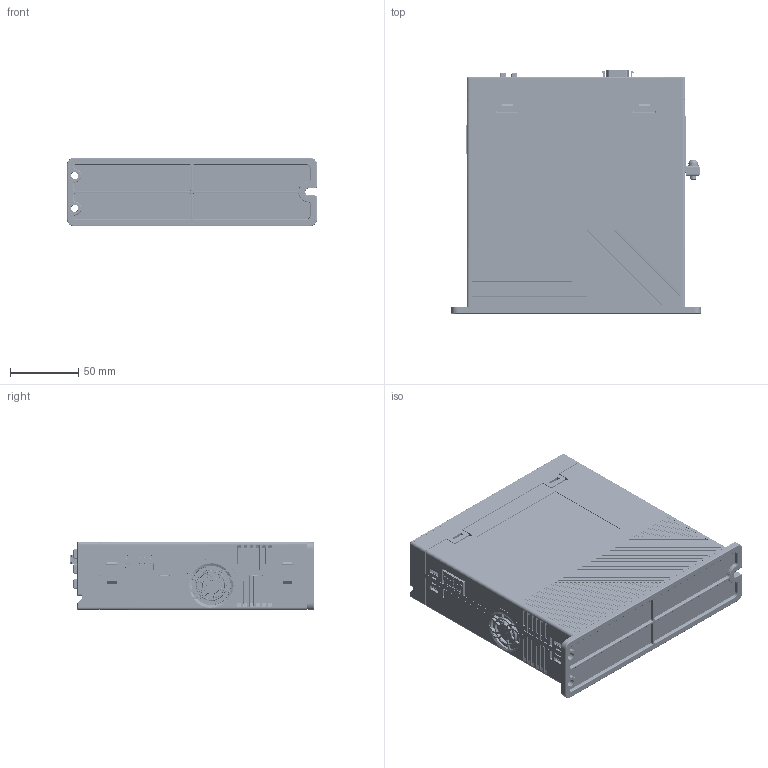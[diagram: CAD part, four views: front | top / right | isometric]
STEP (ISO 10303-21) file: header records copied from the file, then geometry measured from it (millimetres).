
FILE_DESCRIPTION((''),'2;1');
FILE_NAME('BD3E-B-0731_ASM','2023-07-31T',('qiaolun'),(''),'CREO PARAMETRIC BY PTC INC, 2016260','CREO PARAMETRIC BY PTC INC, 2016260','');
FILE_SCHEMA(('CONFIG_CONTROL_DESIGN'));
Products named in the file (30): 103; BDCB-02-11-01-PCB_1_1_1_1; USB0600_1_1_1_1; 23CRN-02-04-03_KEYBUTTON_0724_2; S300-HKDP-001V0R3_1_ASM0724_2_6; S300-HKDP-001V0R3_1_ASM0724_2_7; S300-HKDP-001V0R3_1_ASM0724_2_A_ASM; BDCB-02-12-00-HMI_PCBA_ASM_106__ASM; JACK-T3005008PIN_1_1_1_1; RJLB-010YA1_7_1_1_1; RJ21LC-001YA1-LED-TRANSFORMER_5; 15EDGRHCM-THR-3_5-08P-13-00A__4; SCSI-20P_ASM_1_1_1_1; 104_ASM; 106; 108; SERVOTRONIX_1_1_1; 107_ASM; 109; 5BATTERY_ER14505_1_1_1; 5BATTERY_ER14505_1_ASM_1_ASM; 23CRN-02-04-04_BATTERYCOVER_1_5; 105_ASM; 110; 111; SERVOTRONIX_30_1_1_1; M4X12_1_1_1; 102_ASM; 101_ASM; BD3E-B-0731_ASM
Assembly tree (30 placements, depth 7):
  BD3E-B-0731_ASM
    101_ASM
      102_ASM
        103
        104_ASM
          BDCB-02-11-01-PCB_1_1_1_1
          USB0600_1_1_1_1
          BDCB-02-12-00-HMI_PCBA_ASM_106__ASM
            23CRN-02-04-03_KEYBUTTON_0724_2
            S300-HKDP-001V0R3_1_ASM0724_2_A_ASM
              S300-HKDP-001V0R3_1_ASM0724_2_6
              S300-HKDP-001V0R3_1_ASM0724_2_7
          JACK-T3005008PIN_1_1_1_1
          RJLB-010YA1_7_1_1_1
          RJ21LC-001YA1-LED-TRANSFORMER_5
          15EDGRHCM-THR-3_5-08P-13-00A__4
          SCSI-20P_ASM_1_1_1_1
        105_ASM
          106
          107_ASM
            108
            SERVOTRONIX_1_1_1
          109
          5BATTERY_ER14505_1_ASM_1_ASM
            5BATTERY_ER14505_1_1_1
          23CRN-02-04-04_BATTERYCOVER_1_5
        110
        111
        SERVOTRONIX_30_1_1_1
        M4X12_1_1_1  x2
Bounding box: 183 x 178.2 x 50 mm (x, y, z)
Surface area: 430168.1 mm2
Topology: 22 solids, 61 shells, 16126 faces, 46256 edges, 29842 vertices
Faces by surface type: plane 10917, cylinder 3745, extrusion 522, sphere 299, cone 290, bspline 195, torus 150, revolution 8
Entity records: 547650 total; most frequent: CARTESIAN_POINT 125089, ORIENTED_EDGE 91754, DIRECTION 82410, EDGE_CURVE 45885, VECTOR 35166, LINE 34644, VERTEX_POINT 29796, AXIS2_PLACEMENT_3D 23618
